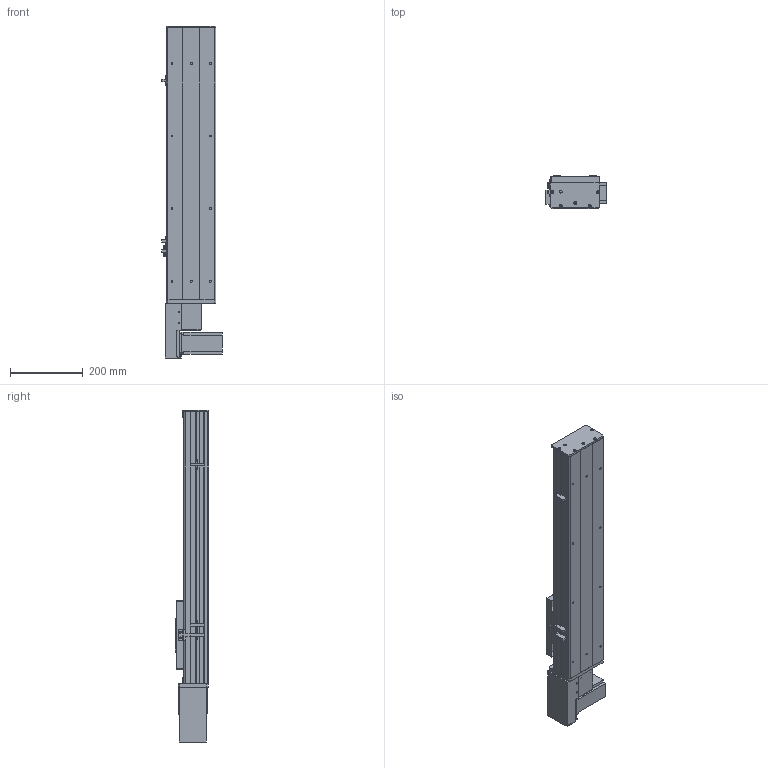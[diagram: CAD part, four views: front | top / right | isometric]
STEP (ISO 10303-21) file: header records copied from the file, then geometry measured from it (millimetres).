
FILE_DESCRIPTION (( 'STEP AP203' ), '1' );
FILE_NAME ('Y135CB-D90-S450-BR-P400W.STEP', '2020-02-18T02:12:14', ( '微软用户' ), ( '微软中国' ), 'SwSTEP 2.0', 'SolidWorks 2017', '' );
FILE_SCHEMA (( 'CONFIG_CONTROL_DESIGN' ));
Length unit declared in the file: millimetre
Products named in the file (18): Y135CB-D90-S450-BR-P400W; 5CB --掛极耜裔啣-; 135CB---遴掛极.-; C-詩湍揤踡え-陔; 35CB---喘謫眊楊擘啣; 135CB--詩湍-CE; Y10B-耜蚾蟀諉啣----; Y100-135俋离換覜ん--; Y俋欶BR----; Y135C-陔俋离換覜結え-; 0B-埴倛裔啣; 5C--俋欶; 0B-源倛裔啣; C-雄赽釱--; 0B-萇儂楊擘啣; Y10B--々湍喘謫眊--666; san松下电机400不带刹车----; Y135CB-耜裔
Assembly tree (21 placements, depth 2):
  Y135CB-D90-S450-BR-P400W
    Y135CB-耜裔
    135CB---遴掛极.-
    35CB---喘謫眊楊擘啣
    Y10B-耜蚾蟀諉啣----
    Y俋欶BR----
    0B-埴倛裔啣
    0B-源倛裔啣
    0B-萇儂楊擘啣
    san松下电机400不带刹车----
    5CB --掛极耜裔啣-  x2
    C-詩湍揤踡え-陔  x2
    135CB--詩湍-CE
    Y100-135俋离換覜ん--  x3
    Y135C-陔俋离換覜結え-
    5C--俋欶
    C-雄赽釱--
    Y10B--々湍喘謫眊--666
Bounding box: 167.5 x 91 x 914.5 mm (x, y, z)
Volume: 2959058.1 mm3; surface area: 1143912.3 mm2
Topology: 21 solids, 21 shells, 933 faces, 2473 edges, 1638 vertices
Faces by surface type: cylinder 459, plane 458, cone 16
Entity records: 28735 total; most frequent: DIRECTION 4769, CARTESIAN_POINT 4680, ORIENTED_EDGE 4422, EDGE_CURVE 2211, AXIS2_PLACEMENT_3D 1731, VERTEX_POINT 1466, LINE 1307, VECTOR 1307
